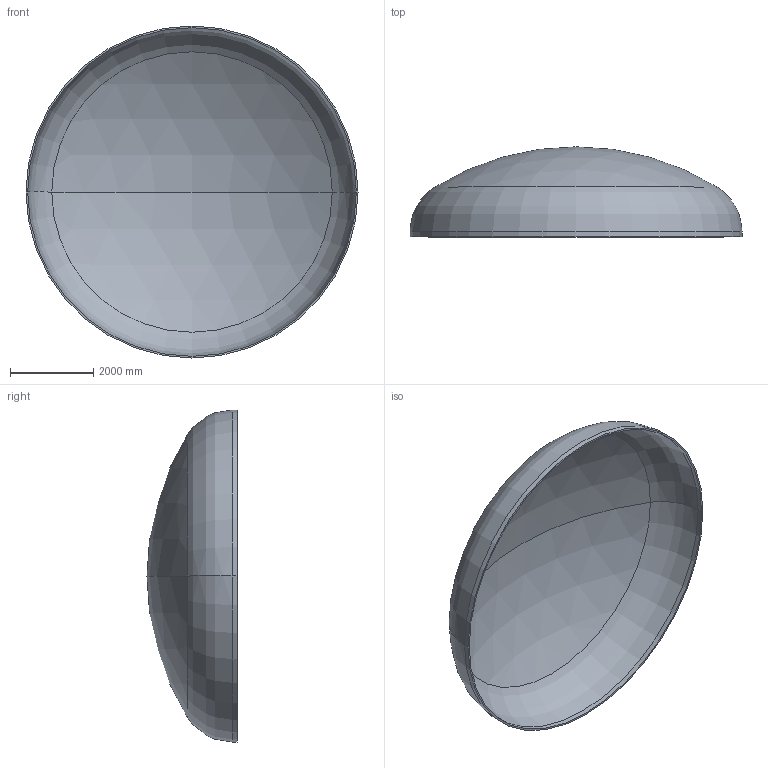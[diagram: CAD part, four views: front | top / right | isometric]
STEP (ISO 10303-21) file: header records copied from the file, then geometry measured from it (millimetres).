
FILE_DESCRIPTION (( 'STEP AP203' ), '1' );
FILE_NAME ('DIN 28013 Korbbogenform_-_Boden DIN 28013 - 8000 x 120 - I - s=40.step', '2016-07-04T11:01:18', ( '' ), ( '' ), 'SwSTEP 2.0', 'SolidWorks 2013', '' );
FILE_SCHEMA (( 'CONFIG_CONTROL_DESIGN' ));
Length unit declared in the file: millimetre
Products named in the file (1): DIN 28013 Korbbogenform_-_Boden DIN 28013 - 8000 x 120 - I - s=40
Bounding box: 8000 x 2169.56 x 8000 mm (x, y, z)
Volume: 2885589172.3 mm3; surface area: 145283035.5 mm2
Topology: 1 solids, 1 shells, 13 faces, 24 edges, 14 vertices
Faces by surface type: torus 4, cylinder 4, sphere 4, plane 1
Entity records: 407 total; most frequent: DIRECTION 72, CARTESIAN_POINT 52, ORIENTED_EDGE 48, AXIS2_PLACEMENT_3D 34, EDGE_CURVE 24, CIRCLE 20, VERTEX_POINT 14, EDGE_LOOP 14
